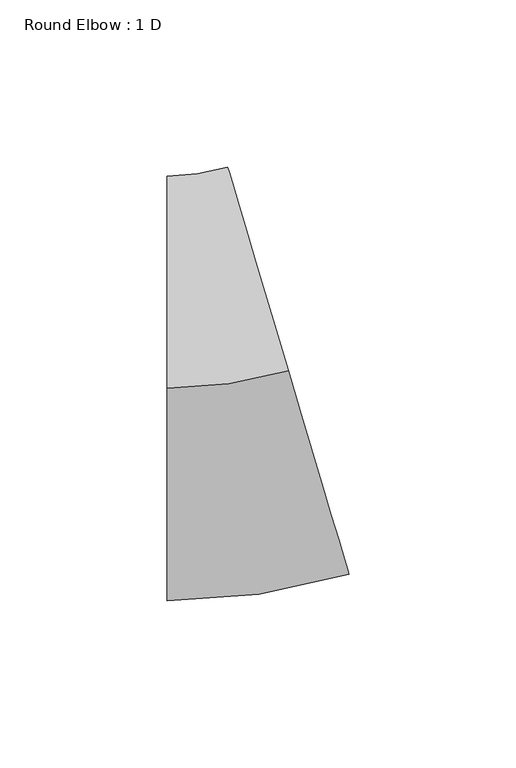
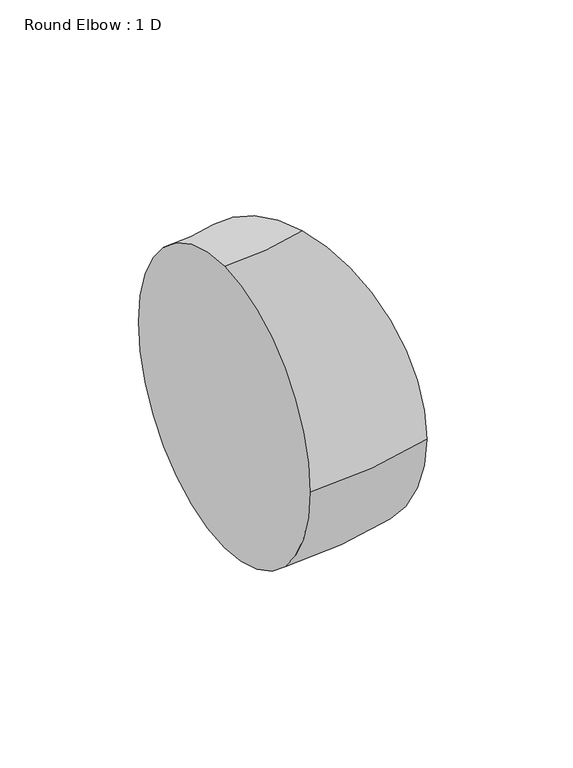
"""IFC4 building model written with IfcOpenShell, lengths in millimetres: duct fitting geometry, Round Elbow : 1 D."""

from ifc_helpers import new_model, si_unit, point, frame, origin, place, context, project, spatial, circle_curve, ellipse_curve, trimmed, source, transform, mapped, element, save
from ifc_brep_helpers import plane_surface, revolved_surface, advanced_brep


def round_elbow_1_d_92dd7378(model_context):
    return source(origin(), model_context, "Body", "AdvancedBrep", [
        advanced_brep(
        [(-18.5349568, 0.0, 63.5), (-18.5349568, 63.5, 0.0), (-18.5349568, 0.0, -63.5), (-18.5349568, -63.5, 0.0), (17.7618419, 5.2973196, 63.5), (35.9102412, -55.5540205, 0.0), (17.7618419, 5.2973196, -63.5), (-0.3865574, 66.1486598, 0.0)],
        [
            (0, 1, circle_curve(frame((-18.5349568, 0.0, 0.0), z_axis=(-1.0, 0.0, 0.0), x_axis=(0.0, 1.0, 0.0)), 63.5)),
            (1, 2, circle_curve(frame((-18.5349568, 0.0, 0.0), z_axis=(-1.0, 0.0, 0.0), x_axis=(0.0, 1.0, 0.0)), 63.5)),
            (2, 3, circle_curve(frame((-18.5349568, 0.0, 0.0), z_axis=(-1.0, 0.0, 0.0), x_axis=(0.0, 1.0, 0.0)), 63.5)),
            (3, 0, circle_curve(frame((-18.5349568, 0.0, 0.0), z_axis=(-1.0, 0.0, 0.0), x_axis=(0.0, 1.0, 0.0)), 63.5)),
            (4, 5, circle_curve(frame((17.7618419, 5.2973196, 0.0), z_axis=(0.9582888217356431, 0.2858015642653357, 0.0), x_axis=(-0.2858015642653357, 0.9582888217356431, 0.0)), 63.5)),
            (5, 6, circle_curve(frame((17.7618419, 5.2973196, 0.0), z_axis=(0.9582888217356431, 0.2858015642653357, 0.0), x_axis=(-0.2858015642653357, 0.9582888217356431, 0.0)), 63.5)),
            (6, 7, circle_curve(frame((17.7618419, 5.2973196, 0.0), z_axis=(0.9582888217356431, 0.2858015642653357, 0.0), x_axis=(-0.2858015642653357, 0.9582888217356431, 0.0)), 63.5)),
            (7, 4, circle_curve(frame((17.7618419, 5.2973196, 0.0), z_axis=(0.9582888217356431, 0.2858015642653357, 0.0), x_axis=(-0.2858015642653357, 0.9582888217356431, 0.0)), 63.5)),
            (7, 1, circle_curve(frame((-18.5349568, 127.0, 0.0), z_axis=(0.0, 0.0, -1.0), x_axis=(0.0, -1.0, 0.0)), 63.5)),
            (0, 4, circle_curve(frame((-18.5349568, 127.0, 63.5), z_axis=(0.0, 0.0, 1.0), x_axis=(0.0, -1.0, 0.0)), 127.0)),
            (6, 2, circle_curve(frame((-18.5349568, 127.0, -63.5), z_axis=(0.0, 0.0, -1.0), x_axis=(0.0, -1.0, 0.0)), 127.0)),
            (5, 3, circle_curve(frame((-18.5349568, 127.0, 0.0), z_axis=(0.0, 0.0, -1.0), x_axis=(0.0, -1.0, 0.0)), 190.5)),
        ],
        [
            plane_surface(frame((-18.5349568, 0.0, 0.0), z_axis=(-1.0, 0.0, 0.0), x_axis=(0.0, 0.0, 1.0))),
            plane_surface(frame((17.7618419, 5.2973196, 0.0), z_axis=(0.9582888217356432, 0.28580156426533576, 0.0), x_axis=(0.0, 0.0, 1.0))),
            revolved_surface(trimmed(ellipse_curve(frame((-18.5349568, 0.0, 0.0), z_axis=(-1.0, 0.0, 0.0), x_axis=(0.0, 1.0, 0.0)), 63.5, 63.5), [point((-18.5349568, 0.0, 63.5))], [point((-18.5349568, 63.5, 0.0))], True, "CARTESIAN"), (-18.5349568, 127.0, 0.0), (0.0, 0.0, 1.0)),
            revolved_surface(trimmed(ellipse_curve(frame((-18.5349568, 0.0, 0.0), z_axis=(-1.0, 0.0, 0.0), x_axis=(0.0, 1.0, 0.0)), 63.5, 63.5), [point((-18.5349568, 63.5, 0.0))], [point((-18.5349568, 0.0, -63.5))], True, "CARTESIAN"), (-18.5349568, 127.0, 0.0), (0.0, 0.0, 1.0)),
            revolved_surface(trimmed(ellipse_curve(frame((-18.5349568, 0.0, 0.0), z_axis=(-1.0, 0.0, 0.0), x_axis=(0.0, 1.0, 0.0)), 63.5, 63.5), [point((-18.5349568, 0.0, -63.5))], [point((-18.5349568, -63.5, 0.0))], True, "CARTESIAN"), (-18.5349568, 127.0, 0.0), (0.0, 0.0, 1.0)),
            revolved_surface(trimmed(ellipse_curve(frame((-18.5349568, 0.0, 0.0), z_axis=(-1.0, 0.0, 0.0), x_axis=(0.0, 1.0, 0.0)), 63.5, 63.5), [point((-18.5349568, -63.5, 0.0))], [point((-18.5349568, 0.0, 63.5))], True, "CARTESIAN"), (-18.5349568, 127.0, 0.0), (0.0, 0.0, 1.0)),
        ],
        [
            (0, [[1, 2, 3, 4]]),
            (1, [[5, 6, 7, 8]]),
            (2, [[9, -1, 10, -8]]),
            (3, [[11, -2, -9, -7]]),
            (4, [[12, -3, -11, -6]]),
            (5, [[-10, -4, -12, -5]]),
        ],
    ),
    ])


if __name__ == "__main__":
    model = new_model("IFC4")
    model_context = context("Model", 3, world=origin())
    ifc_project = project(units=[si_unit("LENGTHUNIT", "METRE", prefix="MILLI")], contexts=[model_context])
    site = spatial("IfcSite", under=ifc_project)
    building = spatial("IfcBuilding", under=site)
    placement = place(None, origin())
    round_elbow_1_d_shape = round_elbow_1_d_92dd7378(model_context)
    element("IfcDuctFitting", 1, ObjectType="Round Elbow : 1 D", at=placement, inside=building, context=model_context, shape_type="MappedRepresentation", body=[
        mapped(round_elbow_1_d_shape, transform((0.0, 0.0, 0.0), x_axis=(1.0, 0.0, 0.0), y_axis=(0.0, 1.0, 0.0), z_axis=(0.0, 0.0, 1.0))),
    ])
    save(model, "model.ifc")
